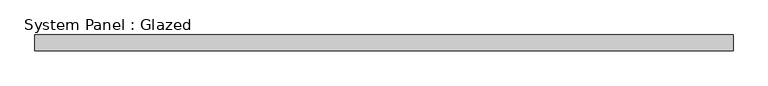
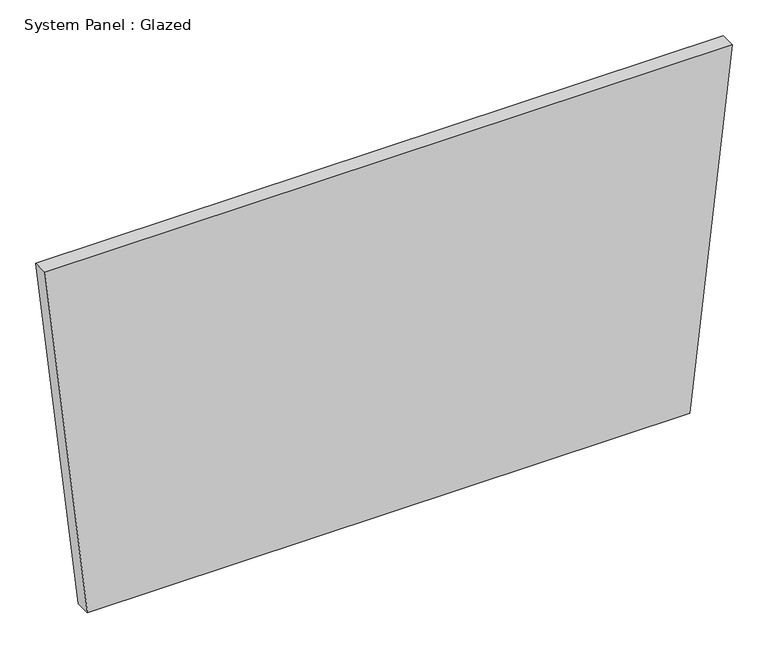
"""IFC4 building model written with IfcOpenShell, lengths in millimetres: plate geometry, System Panel : Glazed."""

from ifc_helpers import new_model, si_unit, frame, origin, place, context, project, spatial, polyline, outline, extrude, source, transform, mapped, element, save


def system_panel_glazed_bedb6522(model_context):
    return source(origin(), model_context, "Body", "SweptSolid", [
        extrude(outline(polyline([(0.0, -486.9589333), (0.0, 486.9589333), (605.7259464, 555.575534), (605.7259464, -555.575534), (0.0, -486.9589333)])), frame((0.0, -44.45, 0.0), z_axis=(0.0, 1.0, 0.0), x_axis=(0.0, 0.0, 1.0)), (0.0, 0.0, 1.0), 25.4),
    ])


if __name__ == "__main__":
    model = new_model("IFC4")
    model_context = context("Model", 3, world=origin())
    ifc_project = project(units=[si_unit("LENGTHUNIT", "METRE", prefix="MILLI")], contexts=[model_context])
    site = spatial("IfcSite", under=ifc_project)
    building = spatial("IfcBuilding", under=site)
    placement = place(None, origin())
    system_panel_glazed_shape = system_panel_glazed_bedb6522(model_context)
    element("IfcPlate", 1, ObjectType="System Panel : Glazed", at=placement, inside=building, context=model_context, shape_type="MappedRepresentation", body=[
        mapped(system_panel_glazed_shape, transform((0.0, 0.0, 0.0), x_axis=(1.0, 0.0, 0.0), y_axis=(0.0, 1.0, 0.0), z_axis=(0.0, 0.0, 1.0))),
    ])
    save(model, "model.ifc")
